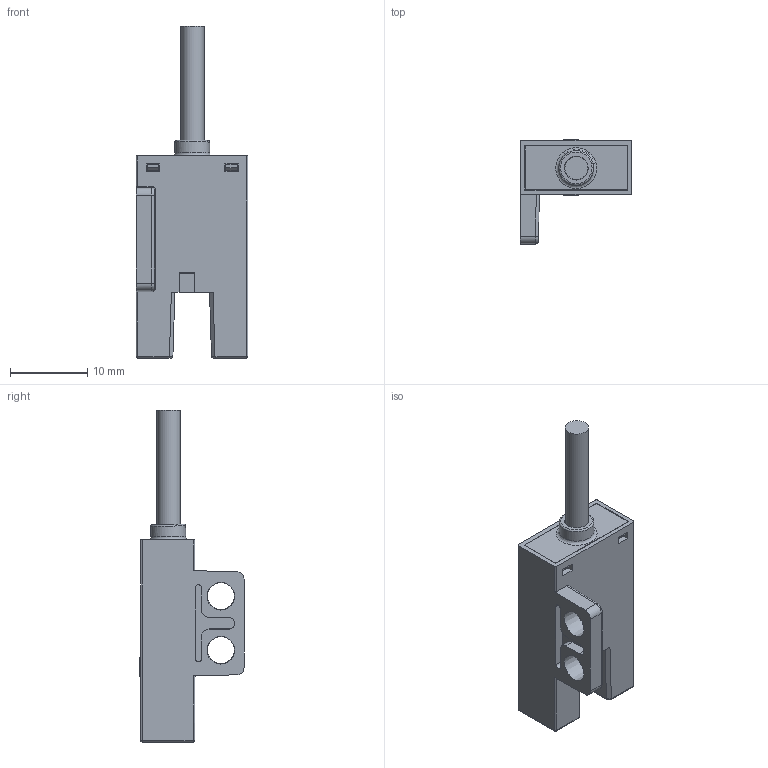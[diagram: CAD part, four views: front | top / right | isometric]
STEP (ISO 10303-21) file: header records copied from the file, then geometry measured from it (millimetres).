
FILE_DESCRIPTION(/* description */ (''),/* implementation_level */ '2;1');
FILE_NAME(/* name */ '304-出线.stp',/* time_stamp */ '2016-12-22T15:37:31+08:00',/* author */ (''),/* organization */ (''),/* preprocessor_version */ 'ST-DEVELOPER v16',/* originating_system */ 'SIEMENS PLM Software NX 10.0',/* authorisation */ '');
FILE_SCHEMA (('AP203_CONFIGURATION_CONTROLLED_3D_DESIGN_OF_MECHANICAL_PARTS_AND_ASSEMBLIES_MIM_LF { 1 0 10303 403 2 1 2}'));
Length unit declared in the file: millimetre
Products named in the file (1): Gavi0C983A09katd
Bounding box: 14.5 x 13.5 x 43.03 mm (x, y, z)
Volume: 1477.4 mm3; surface area: 3776.4 mm2
Topology: 6 solids, 6 shells, 270 faces, 719 edges, 468 vertices
Faces by surface type: plane 204, cylinder 49, torus 6, sphere 4, bspline 4, cone 3
Full cylindrical faces by diameter (mm): 0.8 x4, 1 x6, 1.2 x2, 3 x2, 3.6 x1, 4.5 x1, 5 x1
Entity records: 8487 total; most frequent: CARTESIAN_POINT 1696, ORIENTED_EDGE 1370, DIRECTION 1311, EDGE_CURVE 685, LINE 561, VECTOR 561, VERTEX_POINT 465, AXIS2_PLACEMENT_3D 375
